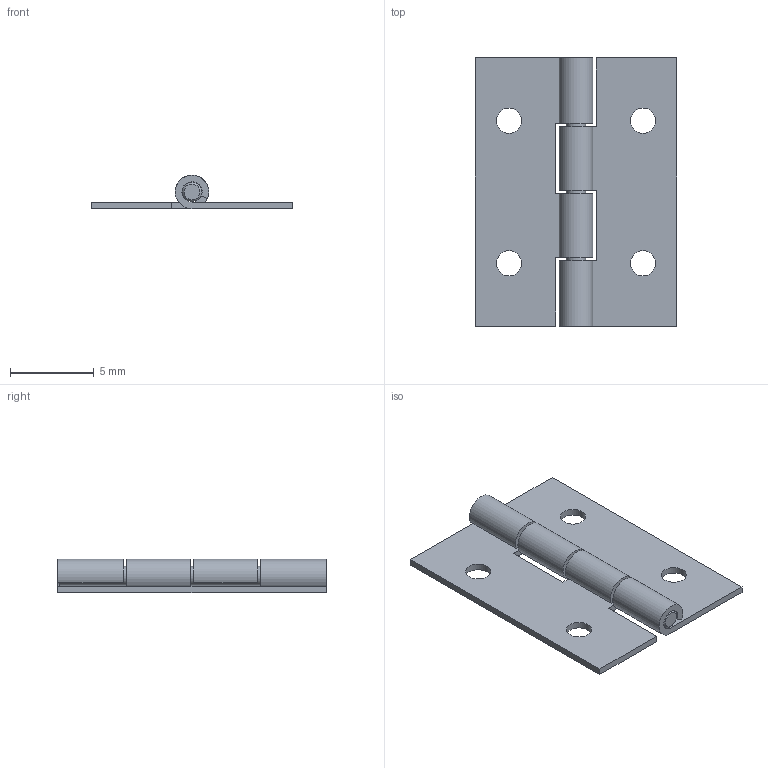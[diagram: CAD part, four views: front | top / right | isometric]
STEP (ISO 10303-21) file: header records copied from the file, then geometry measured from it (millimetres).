
FILE_DESCRIPTION(/* description */ ('Unknown'),/* implementation_level */ '2;1');
FILE_NAME(/* name */ '6218.02.02',/* time_stamp */ '2023-10-10T13:14:43+02:00',/* author */ ('Unknown'),/* organization */ ('Unknown'),/* preprocessor_version */ 'ST-DEVELOPER v16.7',/* originating_system */ 'DEX',/* authorisation */ $);
FILE_SCHEMA (('AUTOMOTIVE_DESIGN {1 0 10303 214 3 1 1}'));
Length unit declared in the file: millimetre
Products named in the file (3): 6218.02.02; Stift 16 mm lang
Assembly tree (3 placements, depth 2):
  6218.02.02
    6218.02.02  x2
    Stift 16 mm lang
Bounding box: 12 x 16 x 2 mm (x, y, z)
Volume: 107.8 mm3; surface area: 573.5 mm2
Topology: 3 solids, 3 shells, 41 faces, 107 edges, 72 vertices
Faces by surface type: plane 26, cylinder 13, cone 2
Full cylindrical faces by diameter (mm): 1.15 x1, 1.5 x4
Entity records: 736 total; most frequent: DIRECTION 120, CARTESIAN_POINT 113, ORIENTED_EDGE 100, EDGE_CURVE 50, AXIS2_PLACEMENT_3D 43, VERTEX_POINT 36, LINE 34, VECTOR 34
